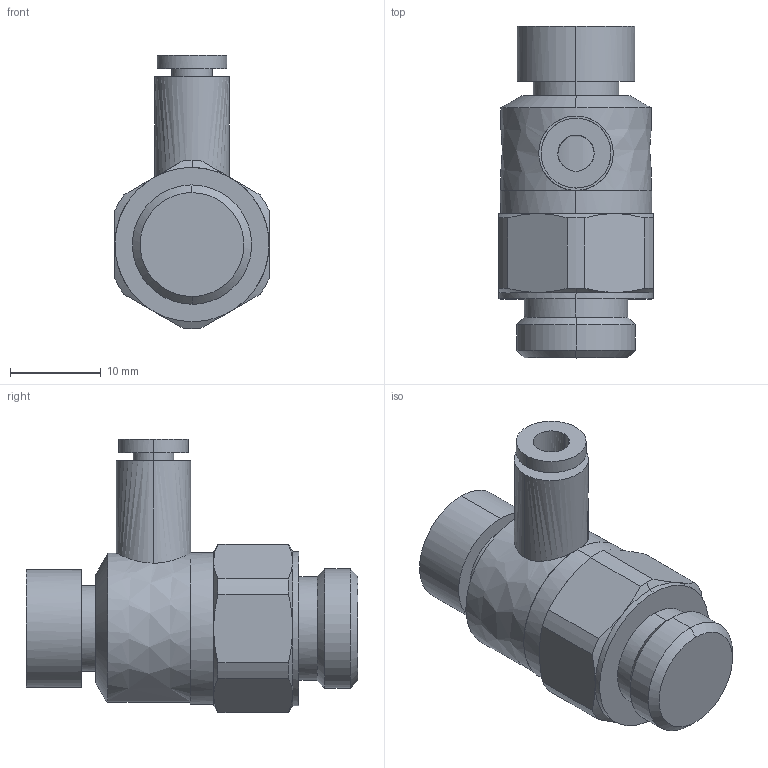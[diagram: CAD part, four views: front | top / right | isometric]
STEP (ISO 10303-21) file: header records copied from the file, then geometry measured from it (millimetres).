
FILE_DESCRIPTION (( 'STEP AP214' ), '1' );
FILE_NAME ('AS2211FC-G02-04A.STEP', '2023-03-08T10:07:11', ( 'Windows User' ), ( 'P R C' ), 'SwSTEP 2.0', 'SolidWorks 2019', '' );
FILE_SCHEMA (( 'AUTOMOTIVE_DESIGN' ));
Length unit declared in the file: millimetre
Products named in the file (1): AS2211FC-G02-04A
Bounding box: 17.01 x 36.6 x 30.2 mm (x, y, z)
Volume: 7235.7 mm3; surface area: 2883.9 mm2
Topology: 1 solids, 1 shells, 69 faces, 164 edges, 105 vertices
Faces by surface type: bspline 51, plane 18
Entity records: 2842 total; most frequent: CARTESIAN_POINT 1798, ORIENTED_EDGE 328, EDGE_CURVE 164, VERTEX_POINT 105, B_SPLINE_CURVE_WITH_KNOTS 103, EDGE_LOOP 77, FACE_OUTER_BOUND 69, ADVANCED_FACE 69
